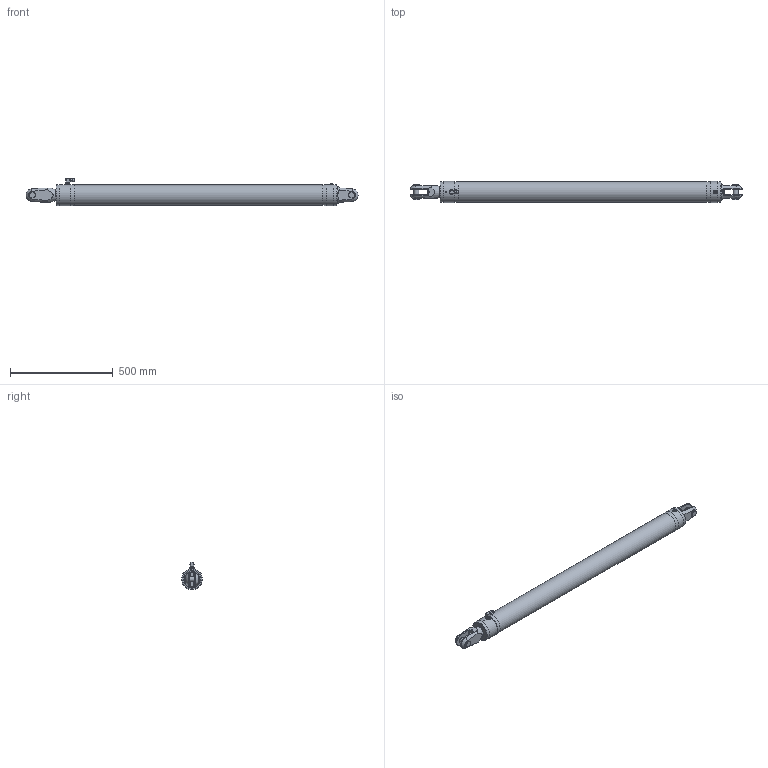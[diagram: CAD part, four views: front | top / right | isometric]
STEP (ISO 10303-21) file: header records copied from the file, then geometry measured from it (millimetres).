
FILE_DESCRIPTION(/* description */ (''),/* implementation_level */ '2;1');
FILE_NAME(/* name */ 'Q:\AA BRAND HYDRAULICS\HYDRAULICS FAMILY DIRECTORY\HYDRAULICS\CYLINDERS\RAMS\ALUMINIUM - STANDARD SINGLE ACTING (-0006 To -0260)\RSA-0040-S1150-NP-71\RSA-0040-S1150-NP-71 (Closed).stp',/* time_stamp */ '2017-11-30T12:20:34+00:00',/* author */ ('Lorena'),/* organization */ (''),/* preprocessor_version */ 'ST-DEVELOPER v16.13',/* originating_system */ 'Autodesk Inventor 2018',/* authorisation */ '');
FILE_SCHEMA (('AUTOMOTIVE_DESIGN { 1 0 10303 214 3 1 1 }'));
Products named in the file (1): RSA-0040-S1150-NP-71 (Closed)
Bounding box: 1613.74 x 102.2 x 133 mm (x, y, z)
Volume: 11230165 mm3; surface area: 528678.4 mm2
Topology: 1 solids, 4 shells, 1613 faces, 4273 edges, 2818 vertices
Faces by surface type: plane 894, bspline 573, cylinder 81, cone 56, torus 5, sphere 4
Full cylindrical faces by diameter (mm): 4 x1, 4.134 x1, 4.2 x2, 5 x1, 5.1 x1, 5.9 x1, 7 x1, 8 x2, 9 x3, 10 x2, 11.157 x1, 11.8 x1, 12 x1, 12.157 x1, 12.77 x1, 13 x1, 13.157 x2, 14.5 x2, 16 x2, 18.3 x2, 22 x1, 25.4 x2, 26 x1, 31.75 x2, 62 x1, 99.2 x1, 102.2 x4
Entity records: 56387 total; most frequent: CARTESIAN_POINT 19126, ORIENTED_EDGE 8304, DIRECTION 5285, EDGE_CURVE 4152, VERTEX_POINT 2783, LINE 2681, VECTOR 2681, EDGE_LOOP 1854
